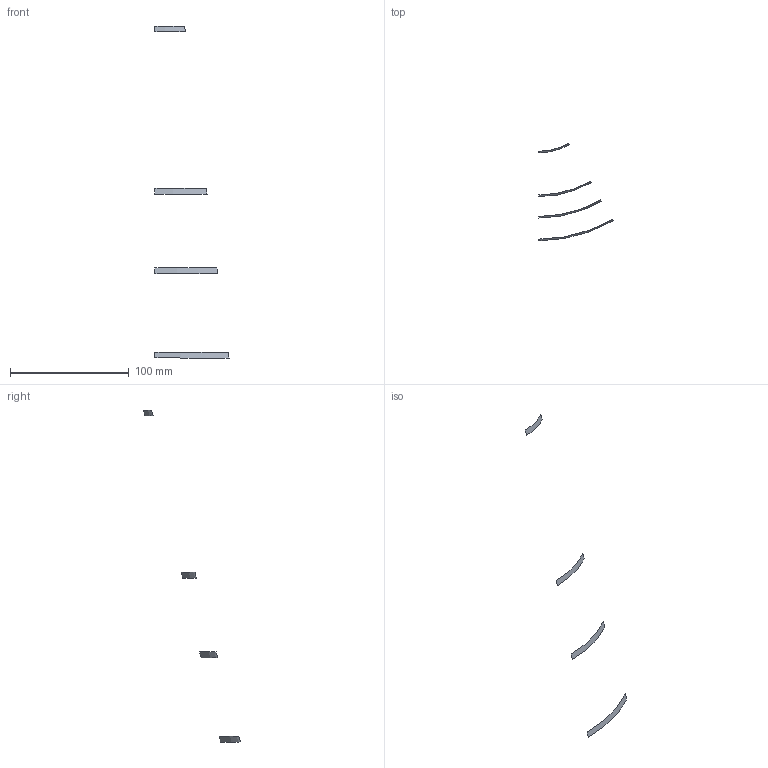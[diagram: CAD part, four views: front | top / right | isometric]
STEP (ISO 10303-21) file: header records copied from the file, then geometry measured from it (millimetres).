
FILE_DESCRIPTION(('CATIA V5 STEP Exchange'),'2;1');
FILE_NAME('C:\Users\diego\Dropbox\Academic\MEng Space Systems\3. MUE - Materiales uso Espacial\Coursework\Modelo FEM\CATIA\.stp\H_Stiffeners.stp','2021-11-24T16:34:23+00:00',('none'),('none'),'CATIA Version 5 Release 21 GA (IN-10)','CATIA V5 STEP AP203','none');
FILE_SCHEMA(('CONFIG_CONTROL_DESIGN'));
Length unit declared in the file: millimetre
Products named in the file (1): Part1
Bounding box: 62.5 x 81.7 x 279.9 mm (x, y, z)
Surface area: 996.5 mm2 (no closed solid volume)
Topology: 0 solids, 4 shells, 4 faces, 16 edges, 16 vertices
Faces by surface type: cone 4
Entity records: 216 total; most frequent: CARTESIAN_POINT 37, DIRECTION 24, ORIENTED_EDGE 16, EDGE_CURVE 16, VERTEX_POINT 16, AXIS2_PLACEMENT_3D 13, VECTOR 8, CIRCLE 8
